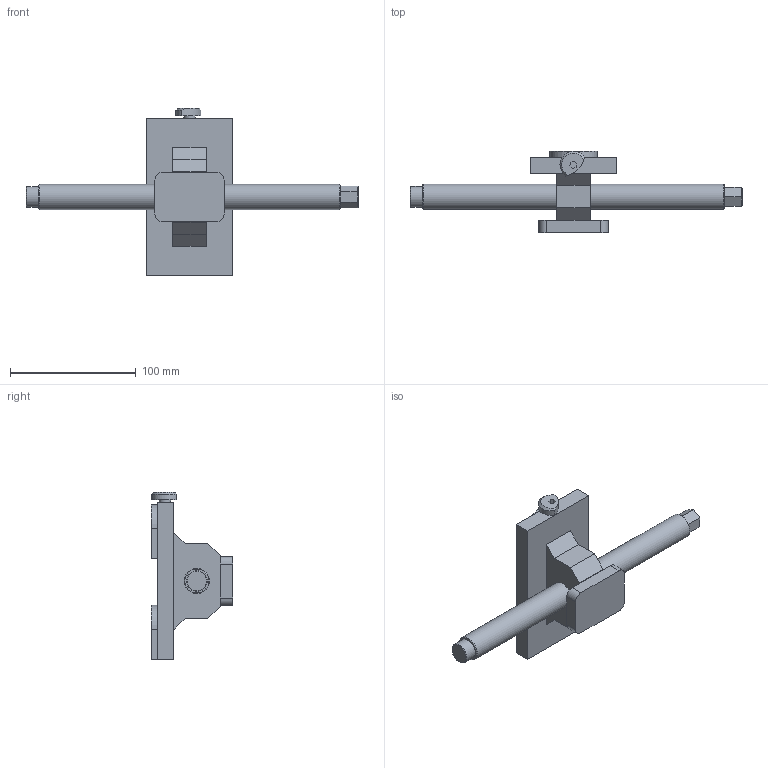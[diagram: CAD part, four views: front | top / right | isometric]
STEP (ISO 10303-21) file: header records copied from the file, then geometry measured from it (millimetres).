
FILE_DESCRIPTION (( 'STEP AP214' ), '1' );
FILE_NAME ('44255-TG125.STEP', '2020-03-27T13:23:36', ( '' ), ( '' ), 'SwSTEP 2.0', 'SolidWorks 2019', '' );
FILE_SCHEMA (( 'AUTOMOTIVE_DESIGN' ));
Length unit declared in the file: millimetre
Products named in the file (1): 44255-TG125
Bounding box: 264 x 65 x 133 mm (x, y, z)
Volume: 280490.5 mm3; surface area: 49137.8 mm2
Topology: 1 solids, 1 shells, 85 faces, 200 edges, 128 vertices
Faces by surface type: plane 69, cylinder 12, cone 4
Full cylindrical faces by diameter (mm): 9 x1, 16.5 x1, 20 x2
Entity records: 2775 total; most frequent: CARTESIAN_POINT 407, DIRECTION 388, ORIENTED_EDGE 380, EDGE_CURVE 190, VECTOR 160, LINE 160, VERTEX_POINT 125, AXIS2_PLACEMENT_3D 114
